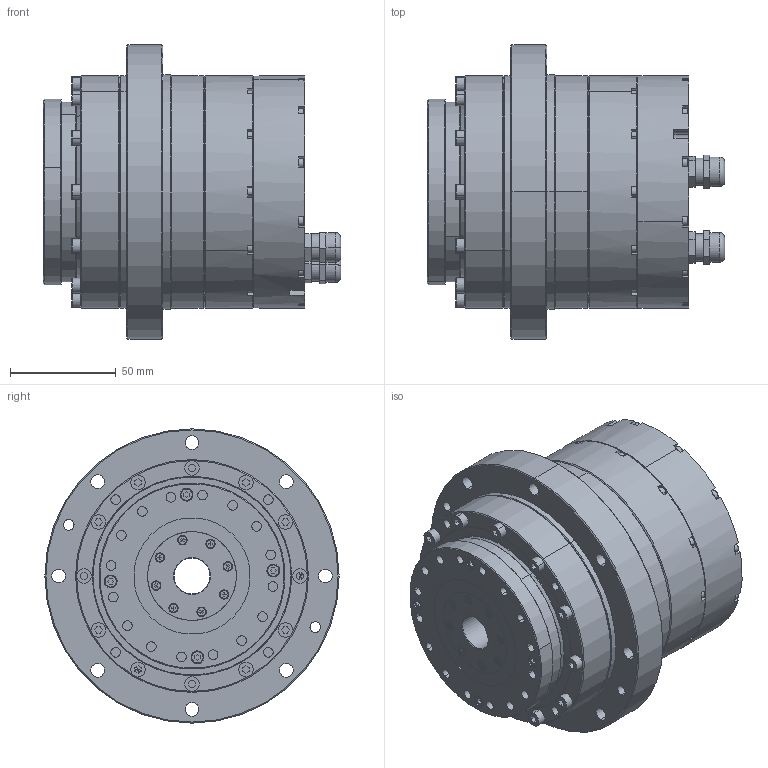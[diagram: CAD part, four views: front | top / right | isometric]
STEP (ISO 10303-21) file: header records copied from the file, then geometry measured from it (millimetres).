
FILE_DESCRIPTION (( 'STEP AP203' ), '1' );
FILE_NAME ('KAH-25CL3AB 总装配图（带法兰端面出线）.step', '2020-07-06T07:50:44', ( '' ), ( '' ), 'SwSTEP 2.0', 'SolidWorks 2016', '' );
FILE_SCHEMA (( 'CONFIG_CONTROL_DESIGN' ));
Length unit declared in the file: millimetre
Products named in the file (1): KAH-25CL3AB 总装配图（带法兰端面出线）
Bounding box: 140.5 x 139 x 139 mm (x, y, z)
Surface area: 112115.4 mm2 (no closed solid volume)
Topology: 0 solids, 71 shells, 865 faces, 2652 edges, 1851 vertices
Faces by surface type: plane 425, cylinder 270, torus 88, cone 64, sphere 16, bspline 2
Entity records: 31651 total; most frequent: CARTESIAN_POINT 7133, DIRECTION 5458, ORIENTED_EDGE 4404, EDGE_CURVE 2652, AXIS2_PLACEMENT_3D 2076, VERTEX_POINT 1851, VECTOR 1306, LINE 1306
